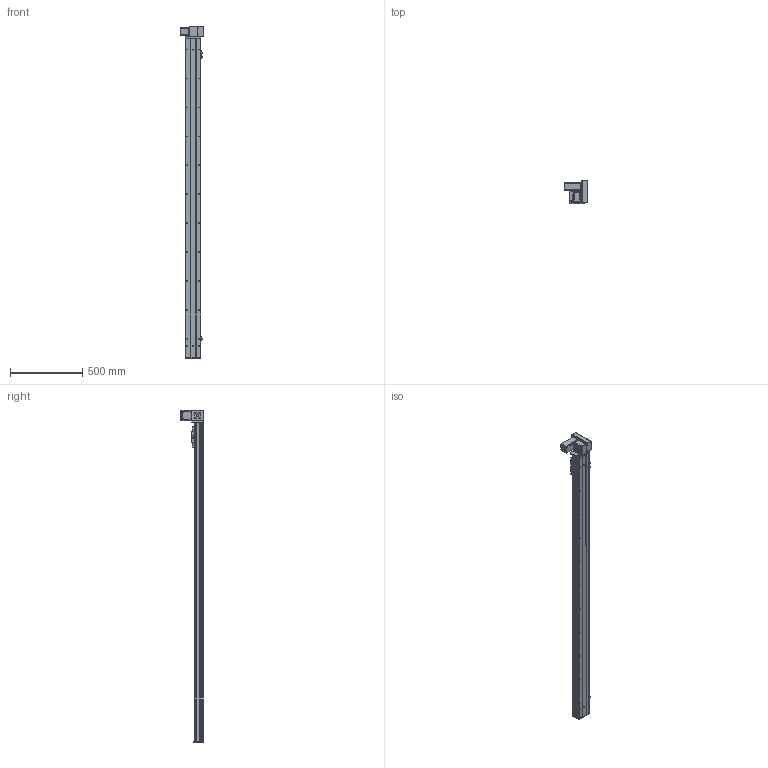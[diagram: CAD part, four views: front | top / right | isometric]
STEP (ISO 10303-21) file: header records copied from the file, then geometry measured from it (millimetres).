
FILE_DESCRIPTION (( 'STEP AP203' ), '1' );
FILE_NAME ('Y10CB-D90-S1950-UR-P400W.STEP', '2020-02-16T04:00:57', ( '微软用户' ), ( '微软中国' ), 'SwSTEP 2.0', 'SolidWorks 2017', '' );
FILE_SCHEMA (( 'CONFIG_CONTROL_DESIGN' ));
Length unit declared in the file: millimetre
Products named in the file (18): Y10B--々湍喘謫眊--666; 0B-埴倛裔啣; Y10B-耜蚾蟀諉啣----; 10CB-詩湍-; 00B-俋欶BM--; Y10CB- 掛极耜裔啣-毀---; 0CB-雄赽釱---; Y10CB-D90-S1950-UR-P400W; Y10C---詩湍揤啣; 0Cb-俋欶---; 10CB9-掛极; Y10B-々湍喘謫眊楊擘啣--; 10CB-耜裔; 0B-萇儂楊擘啣; Y135C-陔俋离換覜結え-; san松下电机400不带刹车----; Y100-135俋离換覜ん--; 0B-源倛裔啣
Assembly tree (21 placements, depth 2):
  Y10CB-D90-S1950-UR-P400W
    0CB-雄赽釱---
    0Cb-俋欶---
    Y10B-々湍喘謫眊楊擘啣--
    0B-萇儂楊擘啣
    san松下电机400不带刹车----
    0B-源倛裔啣
    0B-埴倛裔啣
    10CB-詩湍-
    Y10CB- 掛极耜裔啣-毀---  x2
    Y10C---詩湍揤啣  x2
    10CB9-掛极
    10CB-耜裔
    Y135C-陔俋离換覜結え-
    Y100-135俋离換覜ん--  x3
    Y10B--々湍喘謫眊--666
    Y10B-耜蚾蟀諉啣----
    00B-俋欶BM--
Bounding box: 157 x 155.5 x 2296 mm (x, y, z)
Volume: 4793501.4 mm3; surface area: 2247990.6 mm2
Topology: 21 solids, 21 shells, 1050 faces, 2843 edges, 1850 vertices
Faces by surface type: cylinder 539, plane 487, cone 24
Entity records: 33412 total; most frequent: CARTESIAN_POINT 6209, DIRECTION 5338, ORIENTED_EDGE 5156, EDGE_CURVE 2578, AXIS2_PLACEMENT_3D 1909, VERTEX_POINT 1676, LINE 1520, VECTOR 1520
